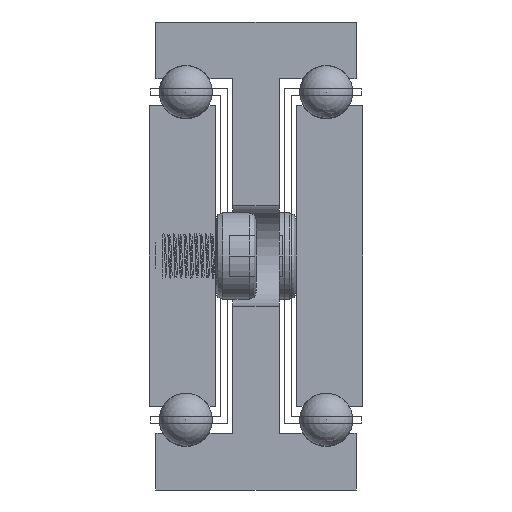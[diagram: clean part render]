
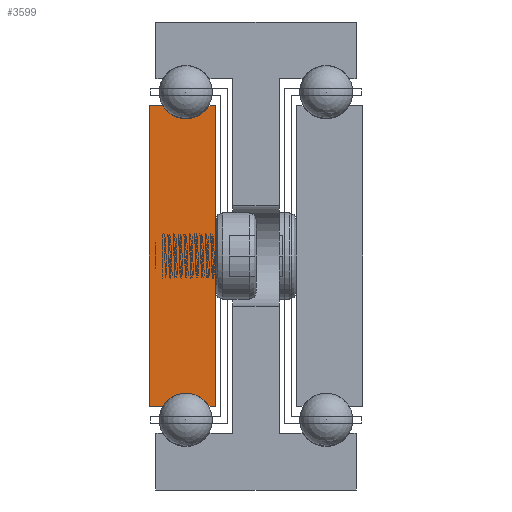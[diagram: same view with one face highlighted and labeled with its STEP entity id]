
A CAD part, front view. The second image highlights one B-rep face of the part: STEP entity #3599.
In plain terms, the highlighted planar face has unit normal (0, -1, 0).
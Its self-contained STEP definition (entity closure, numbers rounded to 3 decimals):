
#244=LINE('',#5426,#456);
#247=LINE('',#5432,#459);
#251=LINE('',#5444,#463);
#254=LINE('',#5450,#466);
#257=LINE('',#5456,#469);
#261=LINE('',#5466,#473);
#456=VECTOR('',#4346,1.);
#459=VECTOR('',#4351,1.);
#463=VECTOR('',#4363,1.);
#466=VECTOR('',#4368,1.);
#469=VECTOR('',#4373,1.);
#473=VECTOR('',#4385,1.);
#673=PLANE('',#3879);
#965=FACE_OUTER_BOUND('',#1191,.T.);
#1191=EDGE_LOOP('',(#2800,#2801,#2802,#2803,#2804,#2805,#2806,#2807));
#1545=CIRCLE('',#3870,4.);
#1547=CIRCLE('',#3876,4.);
#1798=VERTEX_POINT('',#5423);
#1799=VERTEX_POINT('',#5425);
#1801=VERTEX_POINT('',#5431);
#1803=VERTEX_POINT('',#5437);
#1805=VERTEX_POINT('',#5443);
#1807=VERTEX_POINT('',#5449);
#1809=VERTEX_POINT('',#5455);
#1811=VERTEX_POINT('',#5461);
#2252=EDGE_CURVE('',#1799,#1798,#244,.T.);
#2255=EDGE_CURVE('',#1801,#1799,#247,.T.);
#2258=EDGE_CURVE('',#1803,#1801,#1545,.T.);
#2261=EDGE_CURVE('',#1805,#1803,#251,.T.);
#2264=EDGE_CURVE('',#1807,#1805,#254,.T.);
#2267=EDGE_CURVE('',#1809,#1807,#257,.T.);
#2270=EDGE_CURVE('',#1811,#1809,#1547,.T.);
#2273=EDGE_CURVE('',#1798,#1811,#261,.T.);
#2800=ORIENTED_EDGE('',*,*,#2273,.T.);
#2801=ORIENTED_EDGE('',*,*,#2270,.T.);
#2802=ORIENTED_EDGE('',*,*,#2267,.T.);
#2803=ORIENTED_EDGE('',*,*,#2264,.T.);
#2804=ORIENTED_EDGE('',*,*,#2261,.T.);
#2805=ORIENTED_EDGE('',*,*,#2258,.T.);
#2806=ORIENTED_EDGE('',*,*,#2255,.T.);
#2807=ORIENTED_EDGE('',*,*,#2252,.T.);
#3599=ADVANCED_FACE('',(#965),#673,.T.);
#3870=AXIS2_PLACEMENT_3D('',#5438,#4357,#4358);
#3876=AXIS2_PLACEMENT_3D('',#5462,#4379,#4380);
#3879=AXIS2_PLACEMENT_3D('',#5468,#4388,#4389);
#4346=DIRECTION('',(0.,0.,-1.));
#4351=DIRECTION('',(-1.,0.,0.));
#4357=DIRECTION('center_axis',(0.,1.,0.));
#4358=DIRECTION('ref_axis',(-0.866,0.,-0.5));
#4363=DIRECTION('',(-1.,0.,0.));
#4368=DIRECTION('',(0.,0.,1.));
#4373=DIRECTION('',(1.,0.,0.));
#4379=DIRECTION('center_axis',(0.,1.,0.));
#4380=DIRECTION('ref_axis',(0.866,0.,0.5));
#4385=DIRECTION('',(1.,0.,0.));
#4388=DIRECTION('center_axis',(0.,-1.,0.));
#4389=DIRECTION('ref_axis',(1.,0.,0.));
#5423=CARTESIAN_POINT('',(-4018.106,-717.553,477.5));
#5425=CARTESIAN_POINT('',(-4018.106,-717.553,522.5));
#5426=CARTESIAN_POINT('',(-4018.106,-717.553,477.5));
#5431=CARTESIAN_POINT('',(-4016.07,-717.553,522.5));
#5432=CARTESIAN_POINT('',(-4018.106,-717.553,522.5));
#5437=CARTESIAN_POINT('',(-4009.142,-717.553,522.5));
#5438=CARTESIAN_POINT('Origin',(-4012.606,-717.553,524.5));
#5443=CARTESIAN_POINT('',(-4008.106,-717.553,522.5));
#5444=CARTESIAN_POINT('',(-4009.142,-717.553,522.5));
#5449=CARTESIAN_POINT('',(-4008.106,-717.553,477.5));
#5450=CARTESIAN_POINT('',(-4008.106,-717.553,522.5));
#5455=CARTESIAN_POINT('',(-4009.142,-717.553,477.5));
#5456=CARTESIAN_POINT('',(-4008.106,-717.553,477.5));
#5461=CARTESIAN_POINT('',(-4016.07,-717.553,477.5));
#5462=CARTESIAN_POINT('Origin',(-4012.606,-717.553,475.5));
#5466=CARTESIAN_POINT('',(-4016.07,-717.553,477.5));
#5468=CARTESIAN_POINT('Origin',(-4013.112,-717.553,500.));
